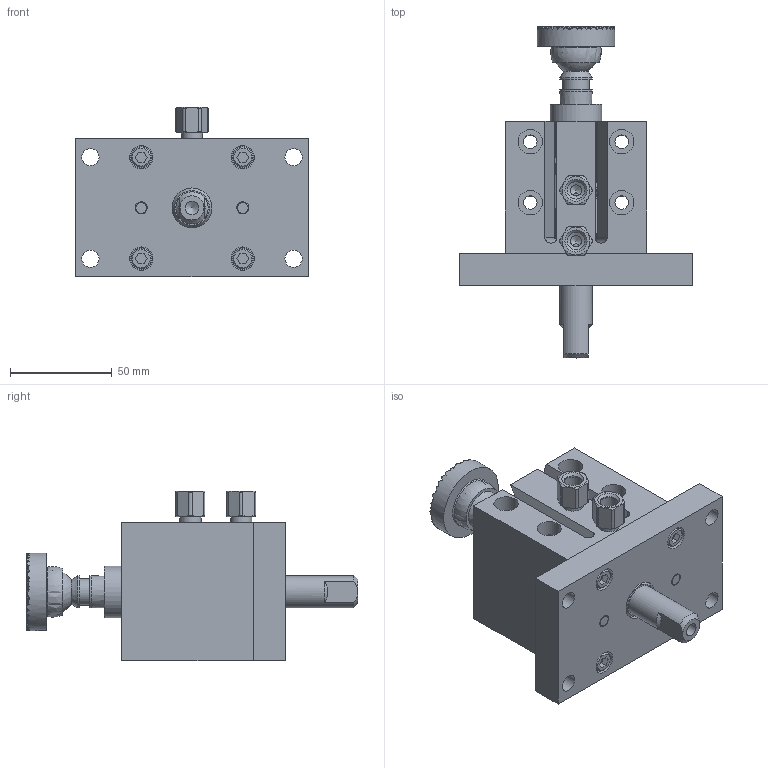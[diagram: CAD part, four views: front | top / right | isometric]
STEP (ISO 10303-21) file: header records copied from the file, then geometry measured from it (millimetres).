
FILE_DESCRIPTION(/* description */ ('PNEUMATIC PASS THRU GROUND UNIT'),/* implementation_level */ '2;1');
FILE_NAME(/* name */ 'C:\Vault Workspace\CAD\Welker\Cylinders\GBP\GBPCN.stp',/* time_stamp */ '2021-06-24T14:00:04-04:00',/* author */ ('KPL'),/* organization */ (''),/* preprocessor_version */ 'ST-DEVELOPER v18.1',/* originating_system */ 'Autodesk Inventor 2020',/* authorisation */ '');
FILE_SCHEMA (('AUTOMOTIVE_DESIGN { 1 0 10303 214 3 1 1 }'));
Products named in the file (12): GBPL01; 6mmX25 ; M6X1-20 SHCS; NL6; WBB1222823; L3 Sensor 1; GB3E25; GBPE01; GBPE02; GBPE03; AN-09U2145; AN-03U2145
Assembly tree (20 placements, depth 2):
  GBPL01
    6mmX25   x2
    M6X1-20 SHCS  x4
    NL6  x4
    WBB1222823  x2
    L3 Sensor 1  x2
    GB3E25
    GBPE01
    GBPE02
    GBPE03
    AN-09U2145
    AN-03U2145
Bounding box: 114.3 x 163.5 x 83.65 mm (x, y, z)
Volume: 401737 mm3; surface area: 99520.9 mm2
Topology: 20 solids, 20 shells, 1074 faces, 2333 edges, 1341 vertices
Faces by surface type: plane 847, cylinder 161, cone 54, torus 8, sphere 4
Full cylindrical faces by diameter (mm): 2.5 x2, 2.9 x2, 4.917 x4, 5.588 x2, 6 x10, 6.5 x8, 6.647 x5, 7.95 x2, 8 x2, 8.5 x4, 8.611 x2, 10 x4, 10.389 x2, 10.8 x4, 11.5 x4, 12 x4, 13 x1, 13.335 x1, 14.935 x2, 15.875 x6, 15.951 x2, 16.129 x1, 19.609 x1, 22.022 x1, 22.225 x1, 22.479 x2, 25.4 x1, 26.162 x1, 28.55 x1, 29.159 x1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
Entity records: 23015 total; most frequent: DIRECTION 4042, CARTESIAN_POINT 4004, ORIENTED_EDGE 3552, EDGE_CURVE 1776, AXIS2_PLACEMENT_3D 1415, LINE 1212, VECTOR 1212, VERTEX_POINT 988
